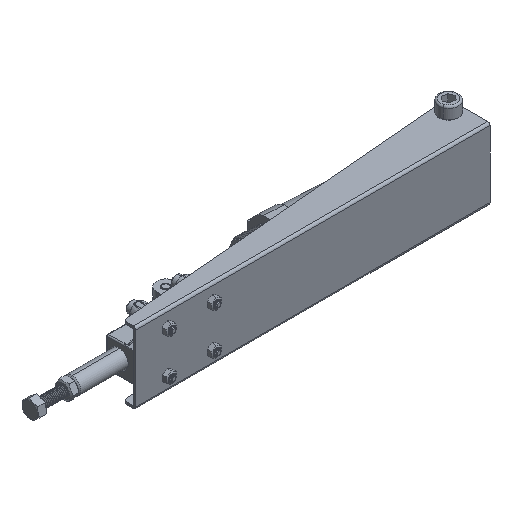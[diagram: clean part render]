
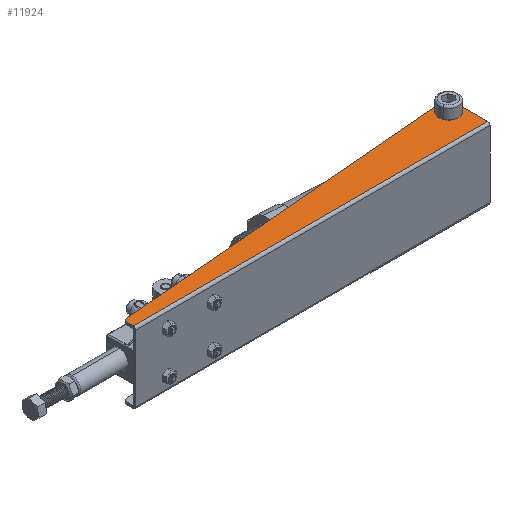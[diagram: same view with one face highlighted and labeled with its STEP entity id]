
A CAD part, isometric view. The second image highlights one B-rep face of the part: STEP entity #11924.
In plain terms, the highlighted planar face has unit normal (0, 0, 1).
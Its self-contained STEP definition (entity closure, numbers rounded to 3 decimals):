
#11497 = VERTEX_POINT('',#11498);
#11498 = CARTESIAN_POINT('',(190.102,21.443,58.));
#11507 = CYLINDRICAL_SURFACE('',#11508,5.);
#11508 = AXIS2_PLACEMENT_3D('',#11509,#11510,#11511);
#11509 = CARTESIAN_POINT('',(195.102,21.443,58.));
#11510 = DIRECTION('',(-0.,-0.,-1.));
#11511 = DIRECTION('',(-1.,0.,0.));
#11519 = CYLINDRICAL_SURFACE('',#11520,5.);
#11520 = AXIS2_PLACEMENT_3D('',#11521,#11522,#11523);
#11521 = CARTESIAN_POINT('',(195.102,21.443,58.));
#11522 = DIRECTION('',(-0.,-0.,-1.));
#11523 = DIRECTION('',(-1.,0.,0.));
#11561 = VERTEX_POINT('',#11562);
#11562 = CARTESIAN_POINT('',(200.102,21.443,58.));
#11583 = EDGE_CURVE('',#11497,#11561,#11584,.T.);
#11584 = SURFACE_CURVE('',#11585,(#11590,#11597),.PCURVE_S1.);
#11585 = CIRCLE('',#11586,5.);
#11586 = AXIS2_PLACEMENT_3D('',#11587,#11588,#11589);
#11587 = CARTESIAN_POINT('',(195.102,21.443,58.));
#11588 = DIRECTION('',(0.,0.,1.));
#11589 = DIRECTION('',(1.,0.,-0.));
#11590 = PCURVE('',#11507,#11591);
#11591 = DEFINITIONAL_REPRESENTATION('',(#11592),#11596);
#11592 = LINE('',#11593,#11594);
#11593 = CARTESIAN_POINT('',(9.425,0.));
#11594 = VECTOR('',#11595,1.);
#11595 = DIRECTION('',(-1.,0.));
#11596 = ( GEOMETRIC_REPRESENTATION_CONTEXT(2) 
PARAMETRIC_REPRESENTATION_CONTEXT() REPRESENTATION_CONTEXT('2D SPACE',''
  ) );
#11597 = PCURVE('',#11598,#11603);
#11598 = PLANE('',#11599);
#11599 = AXIS2_PLACEMENT_3D('',#11600,#11601,#11602);
#11600 = CARTESIAN_POINT('',(-79.398,4.389,58.));
#11601 = DIRECTION('',(0.,0.,1.));
#11602 = DIRECTION('',(1.,0.,-0.));
#11603 = DEFINITIONAL_REPRESENTATION('',(#11604),#11608);
#11604 = CIRCLE('',#11605,5.);
#11605 = AXIS2_PLACEMENT_2D('',#11606,#11607);
#11606 = CARTESIAN_POINT('',(274.5,17.053));
#11607 = DIRECTION('',(1.,0.));
#11608 = ( GEOMETRIC_REPRESENTATION_CONTEXT(2) 
PARAMETRIC_REPRESENTATION_CONTEXT() REPRESENTATION_CONTEXT('2D SPACE',''
  ) );
#11614 = VERTEX_POINT('',#11615);
#11615 = CARTESIAN_POINT('',(204.602,21.443,58.));
#11624 = CYLINDRICAL_SURFACE('',#11625,9.5);
#11625 = AXIS2_PLACEMENT_3D('',#11626,#11627,#11628);
#11626 = CARTESIAN_POINT('',(195.102,21.443,58.));
#11627 = DIRECTION('',(-0.,-0.,-1.));
#11628 = DIRECTION('',(-1.,0.,0.));
#11636 = PLANE('',#11637);
#11637 = AXIS2_PLACEMENT_3D('',#11638,#11639,#11640);
#11638 = CARTESIAN_POINT('',(204.602,-2.557,58.));
#11639 = DIRECTION('',(-1.,0.,0.));
#11640 = DIRECTION('',(0.,0.,1.));
#11673 = VERTEX_POINT('',#11674);
#11674 = CARTESIAN_POINT('',(194.289,30.908,58.));
#11688 = PLANE('',#11689);
#11689 = AXIS2_PLACEMENT_3D('',#11690,#11691,#11692);
#11690 = CARTESIAN_POINT('',(-79.655,7.378,58.));
#11691 = DIRECTION('',(0.086,-0.996,0.));
#11692 = DIRECTION('',(0.996,0.086,0.));
#11700 = EDGE_CURVE('',#11614,#11673,#11701,.T.);
#11701 = SURFACE_CURVE('',#11702,(#11707,#11714),.PCURVE_S1.);
#11702 = CIRCLE('',#11703,9.5);
#11703 = AXIS2_PLACEMENT_3D('',#11704,#11705,#11706);
#11704 = CARTESIAN_POINT('',(195.102,21.443,58.));
#11705 = DIRECTION('',(0.,0.,1.));
#11706 = DIRECTION('',(1.,0.,-0.));
#11707 = PCURVE('',#11624,#11708);
#11708 = DEFINITIONAL_REPRESENTATION('',(#11709),#11713);
#11709 = LINE('',#11710,#11711);
#11710 = CARTESIAN_POINT('',(3.142,0.));
#11711 = VECTOR('',#11712,1.);
#11712 = DIRECTION('',(-1.,0.));
#11713 = ( GEOMETRIC_REPRESENTATION_CONTEXT(2) 
PARAMETRIC_REPRESENTATION_CONTEXT() REPRESENTATION_CONTEXT('2D SPACE',''
  ) );
#11714 = PCURVE('',#11598,#11715);
#11715 = DEFINITIONAL_REPRESENTATION('',(#11716),#11720);
#11716 = CIRCLE('',#11717,9.5);
#11717 = AXIS2_PLACEMENT_2D('',#11718,#11719);
#11718 = CARTESIAN_POINT('',(274.5,17.053));
#11719 = DIRECTION('',(1.,0.));
#11720 = ( GEOMETRIC_REPRESENTATION_CONTEXT(2) 
PARAMETRIC_REPRESENTATION_CONTEXT() REPRESENTATION_CONTEXT('2D SPACE',''
  ) );
#11750 = VERTEX_POINT('',#11751);
#11751 = CARTESIAN_POINT('',(-79.655,7.378,58.));
#11765 = CYLINDRICAL_SURFACE('',#11766,3.);
#11766 = AXIS2_PLACEMENT_3D('',#11767,#11768,#11769);
#11767 = CARTESIAN_POINT('',(-79.398,4.389,58.));
#11768 = DIRECTION('',(-0.,-0.,-1.));
#11769 = DIRECTION('',(-1.,0.,0.));
#11777 = EDGE_CURVE('',#11673,#11750,#11778,.T.);
#11778 = SURFACE_CURVE('',#11779,(#11783,#11790),.PCURVE_S1.);
#11779 = LINE('',#11780,#11781);
#11780 = CARTESIAN_POINT('',(-79.655,7.378,58.));
#11781 = VECTOR('',#11782,1.);
#11782 = DIRECTION('',(-0.996,-0.086,-0.));
#11783 = PCURVE('',#11688,#11784);
#11784 = DEFINITIONAL_REPRESENTATION('',(#11785),#11789);
#11785 = LINE('',#11786,#11787);
#11786 = CARTESIAN_POINT('',(0.,0.));
#11787 = VECTOR('',#11788,1.);
#11788 = DIRECTION('',(-1.,0.));
#11789 = ( GEOMETRIC_REPRESENTATION_CONTEXT(2) 
PARAMETRIC_REPRESENTATION_CONTEXT() REPRESENTATION_CONTEXT('2D SPACE',''
  ) );
#11790 = PCURVE('',#11598,#11791);
#11791 = DEFINITIONAL_REPRESENTATION('',(#11792),#11796);
#11792 = LINE('',#11793,#11794);
#11793 = CARTESIAN_POINT('',(-0.257,2.989));
#11794 = VECTOR('',#11795,1.);
#11795 = DIRECTION('',(-0.996,-0.086));
#11796 = ( GEOMETRIC_REPRESENTATION_CONTEXT(2) 
PARAMETRIC_REPRESENTATION_CONTEXT() REPRESENTATION_CONTEXT('2D SPACE',''
  ) );
#11827 = VERTEX_POINT('',#11828);
#11828 = CARTESIAN_POINT('',(-82.398,4.389,58.));
#11842 = PLANE('',#11843);
#11843 = AXIS2_PLACEMENT_3D('',#11844,#11845,#11846);
#11844 = CARTESIAN_POINT('',(-82.398,-2.557,58.));
#11845 = DIRECTION('',(1.,0.,0.));
#11846 = DIRECTION('',(0.,0.,-1.));
#11854 = EDGE_CURVE('',#11750,#11827,#11855,.T.);
#11855 = SURFACE_CURVE('',#11856,(#11861,#11868),.PCURVE_S1.);
#11856 = CIRCLE('',#11857,3.);
#11857 = AXIS2_PLACEMENT_3D('',#11858,#11859,#11860);
#11858 = CARTESIAN_POINT('',(-79.398,4.389,58.));
#11859 = DIRECTION('',(0.,0.,1.));
#11860 = DIRECTION('',(1.,0.,-0.));
#11861 = PCURVE('',#11765,#11862);
#11862 = DEFINITIONAL_REPRESENTATION('',(#11863),#11867);
#11863 = LINE('',#11864,#11865);
#11864 = CARTESIAN_POINT('',(3.142,0.));
#11865 = VECTOR('',#11866,1.);
#11866 = DIRECTION('',(-1.,0.));
#11867 = ( GEOMETRIC_REPRESENTATION_CONTEXT(2) 
PARAMETRIC_REPRESENTATION_CONTEXT() REPRESENTATION_CONTEXT('2D SPACE',''
  ) );
#11868 = PCURVE('',#11598,#11869);
#11869 = DEFINITIONAL_REPRESENTATION('',(#11870),#11874);
#11870 = CIRCLE('',#11871,3.);
#11871 = AXIS2_PLACEMENT_2D('',#11872,#11873);
#11872 = CARTESIAN_POINT('',(0.,0.));
#11873 = DIRECTION('',(1.,0.));
#11874 = ( GEOMETRIC_REPRESENTATION_CONTEXT(2) 
PARAMETRIC_REPRESENTATION_CONTEXT() REPRESENTATION_CONTEXT('2D SPACE',''
  ) );
#11902 = EDGE_CURVE('',#11561,#11497,#11903,.T.);
#11903 = SURFACE_CURVE('',#11904,(#11909,#11916),.PCURVE_S1.);
#11904 = CIRCLE('',#11905,5.);
#11905 = AXIS2_PLACEMENT_3D('',#11906,#11907,#11908);
#11906 = CARTESIAN_POINT('',(195.102,21.443,58.));
#11907 = DIRECTION('',(0.,0.,1.));
#11908 = DIRECTION('',(1.,0.,-0.));
#11909 = PCURVE('',#11519,#11910);
#11910 = DEFINITIONAL_REPRESENTATION('',(#11911),#11915);
#11911 = LINE('',#11912,#11913);
#11912 = CARTESIAN_POINT('',(3.142,0.));
#11913 = VECTOR('',#11914,1.);
#11914 = DIRECTION('',(-1.,0.));
#11915 = ( GEOMETRIC_REPRESENTATION_CONTEXT(2) 
PARAMETRIC_REPRESENTATION_CONTEXT() REPRESENTATION_CONTEXT('2D SPACE',''
  ) );
#11916 = PCURVE('',#11598,#11917);
#11917 = DEFINITIONAL_REPRESENTATION('',(#11918),#11922);
#11918 = CIRCLE('',#11919,5.);
#11919 = AXIS2_PLACEMENT_2D('',#11920,#11921);
#11920 = CARTESIAN_POINT('',(274.5,17.053));
#11921 = DIRECTION('',(1.,0.));
#11922 = ( GEOMETRIC_REPRESENTATION_CONTEXT(2) 
PARAMETRIC_REPRESENTATION_CONTEXT() REPRESENTATION_CONTEXT('2D SPACE',''
  ) );
#11924 = ADVANCED_FACE('',(#11925,#12002),#11598,.T.);
#11925 = FACE_BOUND('',#11926,.T.);
#11926 = EDGE_LOOP('',(#11927,#11950,#11978,#11999,#12000,#12001));
#11927 = ORIENTED_EDGE('',*,*,#11928,.T.);
#11928 = EDGE_CURVE('',#11827,#11929,#11931,.T.);
#11929 = VERTEX_POINT('',#11930);
#11930 = CARTESIAN_POINT('',(-82.398,-0.557,58.));
#11931 = SURFACE_CURVE('',#11932,(#11936,#11943),.PCURVE_S1.);
#11932 = LINE('',#11933,#11934);
#11933 = CARTESIAN_POINT('',(-82.398,-2.557,58.));
#11934 = VECTOR('',#11935,1.);
#11935 = DIRECTION('',(-0.,-1.,-0.));
#11936 = PCURVE('',#11598,#11937);
#11937 = DEFINITIONAL_REPRESENTATION('',(#11938),#11942);
#11938 = LINE('',#11939,#11940);
#11939 = CARTESIAN_POINT('',(-3.,-6.947));
#11940 = VECTOR('',#11941,1.);
#11941 = DIRECTION('',(0.,-1.));
#11942 = ( GEOMETRIC_REPRESENTATION_CONTEXT(2) 
PARAMETRIC_REPRESENTATION_CONTEXT() REPRESENTATION_CONTEXT('2D SPACE',''
  ) );
#11943 = PCURVE('',#11842,#11944);
#11944 = DEFINITIONAL_REPRESENTATION('',(#11945),#11949);
#11945 = LINE('',#11946,#11947);
#11946 = CARTESIAN_POINT('',(0.,0.));
#11947 = VECTOR('',#11948,1.);
#11948 = DIRECTION('',(0.,-1.));
#11949 = ( GEOMETRIC_REPRESENTATION_CONTEXT(2) 
PARAMETRIC_REPRESENTATION_CONTEXT() REPRESENTATION_CONTEXT('2D SPACE',''
  ) );
#11950 = ORIENTED_EDGE('',*,*,#11951,.T.);
#11951 = EDGE_CURVE('',#11929,#11952,#11954,.T.);
#11952 = VERTEX_POINT('',#11953);
#11953 = CARTESIAN_POINT('',(204.602,-0.557,58.));
#11954 = SURFACE_CURVE('',#11955,(#11959,#11966),.PCURVE_S1.);
#11955 = LINE('',#11956,#11957);
#11956 = CARTESIAN_POINT('',(204.602,-0.557,58.));
#11957 = VECTOR('',#11958,1.);
#11958 = DIRECTION('',(1.,-0.,0.));
#11959 = PCURVE('',#11598,#11960);
#11960 = DEFINITIONAL_REPRESENTATION('',(#11961),#11965);
#11961 = LINE('',#11962,#11963);
#11962 = CARTESIAN_POINT('',(284.,-4.947));
#11963 = VECTOR('',#11964,1.);
#11964 = DIRECTION('',(1.,0.));
#11965 = ( GEOMETRIC_REPRESENTATION_CONTEXT(2) 
PARAMETRIC_REPRESENTATION_CONTEXT() REPRESENTATION_CONTEXT('2D SPACE',''
  ) );
#11966 = PCURVE('',#11967,#11972);
#11967 = CYLINDRICAL_SURFACE('',#11968,2.);
#11968 = AXIS2_PLACEMENT_3D('',#11969,#11970,#11971);
#11969 = CARTESIAN_POINT('',(-79.398,-0.557,56.));
#11970 = DIRECTION('',(-1.,0.,0.));
#11971 = DIRECTION('',(0.,0.,1.));
#11972 = DEFINITIONAL_REPRESENTATION('',(#11973),#11977);
#11973 = LINE('',#11974,#11975);
#11974 = CARTESIAN_POINT('',(6.283,-284.));
#11975 = VECTOR('',#11976,1.);
#11976 = DIRECTION('',(0.,-1.));
#11977 = ( GEOMETRIC_REPRESENTATION_CONTEXT(2) 
PARAMETRIC_REPRESENTATION_CONTEXT() REPRESENTATION_CONTEXT('2D SPACE',''
  ) );
#11978 = ORIENTED_EDGE('',*,*,#11979,.T.);
#11979 = EDGE_CURVE('',#11952,#11614,#11980,.T.);
#11980 = SURFACE_CURVE('',#11981,(#11985,#11992),.PCURVE_S1.);
#11981 = LINE('',#11982,#11983);
#11982 = CARTESIAN_POINT('',(204.602,-2.557,58.));
#11983 = VECTOR('',#11984,1.);
#11984 = DIRECTION('',(0.,1.,0.));
#11985 = PCURVE('',#11598,#11986);
#11986 = DEFINITIONAL_REPRESENTATION('',(#11987),#11991);
#11987 = LINE('',#11988,#11989);
#11988 = CARTESIAN_POINT('',(284.,-6.947));
#11989 = VECTOR('',#11990,1.);
#11990 = DIRECTION('',(0.,1.));
#11991 = ( GEOMETRIC_REPRESENTATION_CONTEXT(2) 
PARAMETRIC_REPRESENTATION_CONTEXT() REPRESENTATION_CONTEXT('2D SPACE',''
  ) );
#11992 = PCURVE('',#11636,#11993);
#11993 = DEFINITIONAL_REPRESENTATION('',(#11994),#11998);
#11994 = LINE('',#11995,#11996);
#11995 = CARTESIAN_POINT('',(0.,0.));
#11996 = VECTOR('',#11997,1.);
#11997 = DIRECTION('',(0.,1.));
#11998 = ( GEOMETRIC_REPRESENTATION_CONTEXT(2) 
PARAMETRIC_REPRESENTATION_CONTEXT() REPRESENTATION_CONTEXT('2D SPACE',''
  ) );
#11999 = ORIENTED_EDGE('',*,*,#11700,.T.);
#12000 = ORIENTED_EDGE('',*,*,#11777,.T.);
#12001 = ORIENTED_EDGE('',*,*,#11854,.T.);
#12002 = FACE_BOUND('',#12003,.T.);
#12003 = EDGE_LOOP('',(#12004,#12005));
#12004 = ORIENTED_EDGE('',*,*,#11583,.F.);
#12005 = ORIENTED_EDGE('',*,*,#11902,.F.);
